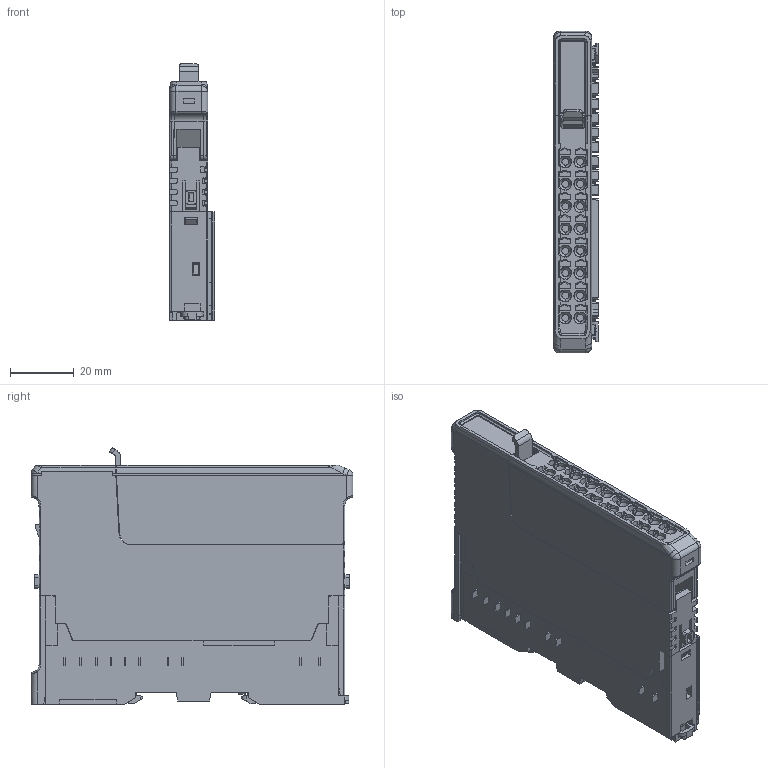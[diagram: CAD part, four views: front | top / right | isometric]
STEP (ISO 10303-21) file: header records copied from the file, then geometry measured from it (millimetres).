
FILE_DESCRIPTION((''),'2;1');
FILE_NAME('CARD-MODULE-16P_ASM','2022-11-23T17:38:24',('BCKIM'),(''),'CREO PARAMETRIC BY PTC INC, 2020454','CREO PARAMETRIC BY PTC INC, 2020454','');
FILE_SCHEMA(('CONFIG_CONTROL_DESIGN'));
Products named in the file (5): CARD_BASE_9; CARD_BODY_5_1; CARD_BODY_5_ASM; TERMINAL-16; CARD-MODULE-16P_ASM
Assembly tree (4 placements, depth 3):
  CARD-MODULE-16P_ASM
    CARD_BASE_9
    CARD_BODY_5_ASM
      CARD_BODY_5_1
    TERMINAL-16
Bounding box: 14.15 x 101 x 80.49 mm (x, y, z)
Volume: 78073.6 mm3; surface area: 39153.9 mm2
Topology: 3 solids, 27 shells, 4063 faces, 10891 edges, 6956 vertices
Faces by surface type: plane 3184, cylinder 610, cone 201, bspline 50, torus 12, sphere 6
Entity records: 128140 total; most frequent: CARTESIAN_POINT 27754, ORIENTED_EDGE 21780, DIRECTION 19238, EDGE_CURVE 10890, VECTOR 8652, LINE 8652, VERTEX_POINT 6956, AXIS2_PLACEMENT_3D 5293
